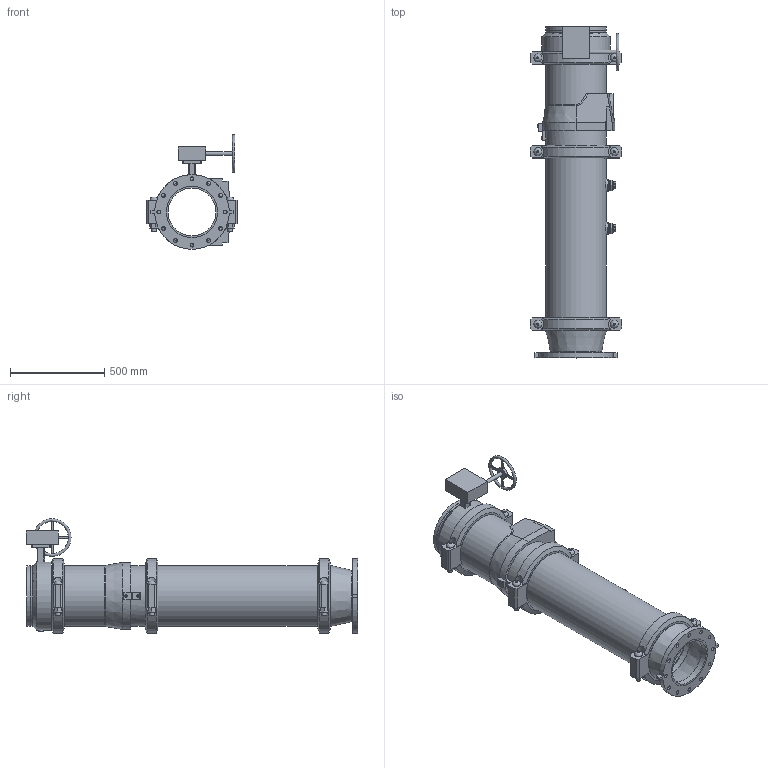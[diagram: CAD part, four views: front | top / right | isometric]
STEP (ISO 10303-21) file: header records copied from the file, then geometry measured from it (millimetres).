
FILE_DESCRIPTION(/* description */ ('VIC DVI PUMP DROP VERT S/390 (OGSxFLG)','CAx-IF Rec.Pracs.---Representation and Presentation of Product Manufacturing Information (PMI)---4.0---2014-10-13'),/* implementation_level */ '2;1');
FILE_NAME(/* name */ 'C:\Users\Vjadhav\AppData\Roaming\Autodesk\ApplicationPlugins\Back Up\Victaulic_IPS_Vertical DVI_PN10_Series 390 (OGSxFLG)\Victaulic_IPS_Vertical DVI_PN10_Series 390 (OGSxFLG)_12.0x10.0 (300x250).stp',/* time_stamp */ '2020-11-09T17:52:21+05:00',/* author */ ('Vjadhav'),/* organization */ ('Victaulic'),/* preprocessor_version */ 'ST-DEVELOPER v17.2',/* originating_system */ 'Autodesk Inventor 2019',/* authorisation */ '');
FILE_SCHEMA (('AP242_MANAGED_MODEL_BASED_3D_ENGINEERING_MIM_LF { 1 0 10303 442 1 1 4 }'));
Length unit declared in the file: inch
Products named in the file (8): 390-12.0x10.0; 741-10.0; 050-12.0x10.0; Pipe-12.0; 716-12.0; 923-10.0x0.75; 761-12.0; 077-12.0
Assembly tree (10 placements, depth 2):
  390-12.0x10.0
    741-10.0
    050-12.0x10.0
    Pipe-12.0
    716-12.0
    923-10.0x0.75  x2
    761-12.0
    077-12.0  x3
Bounding box: 488.95 x 1764.79 x 609.46 mm (x, y, z)
Volume: 36613969.1 mm3; surface area: 5098860.1 mm2
Topology: 10 solids, 17 shells, 479 faces, 1204 edges, 818 vertices
Faces by surface type: plane 283, cylinder 162, cone 20, bspline 8, torus 6
Full cylindrical faces by diameter (mm): 10.922 x4, 12.7 x2, 20.066 x13, 21.336 x2, 22.86 x1, 25.4 x12, 26.67 x2, 27.432 x6, 31.75 x1, 45.974 x4, 55.626 x2, 63.079 x1, 70.104 x1, 76.2 x2, 254.508 x1, 268.275 x1, 273.05 x3, 303.225 x1, 304.8 x2, 309.677 x1, 314.96 x3, 318.287 x7, 323.85 x19, 361.95 x1
Entity records: 10349 total; most frequent: CARTESIAN_POINT 2032, DIRECTION 1693, ORIENTED_EDGE 1536, EDGE_CURVE 768, AXIS2_PLACEMENT_3D 658, VERTEX_POINT 527, EDGE_LOOP 387, LINE 377
